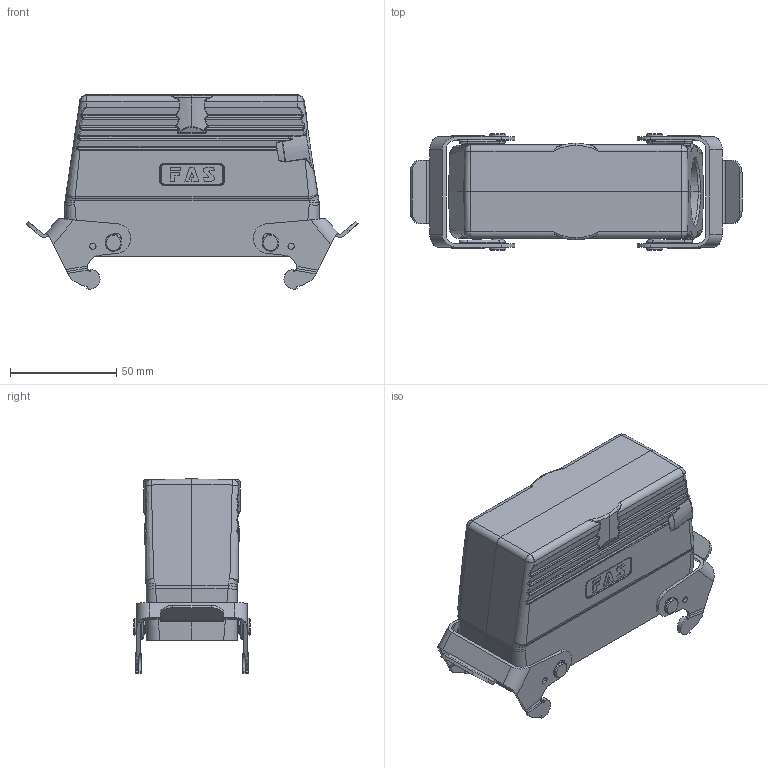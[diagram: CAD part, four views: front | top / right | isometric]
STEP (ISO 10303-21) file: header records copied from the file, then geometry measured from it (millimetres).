
FILE_DESCRIPTION (( 'STEP AP203' ), '1' );
FILE_NAME ('H24B-TSBH-M25&32&40.STEP', '2020-11-21T06:28:47', ( '' ), ( '' ), 'SwSTEP 2.0', 'SolidWorks 2016', '' );
FILE_SCHEMA (( 'CONFIG_CONTROL_DESIGN' ));
Length unit declared in the file: millimetre
Products named in the file (6): maoding; jinshushuangkou; 24bcaixinshuangkou; tanhuang; H24B-TSBH-M25&32&40; H24B-TSH-奻褲
Assembly tree (8 placements, depth 3):
  H24B-TSBH-M25&32&40
    jinshushuangkou  x2
      24bcaixinshuangkou
      tanhuang
      maoding
    H24B-TSH-奻褲
Bounding box: 156.49 x 55 x 91.56 mm (x, y, z)
Volume: 117956 mm3; surface area: 64501.4 mm2
Topology: 11 solids, 11 shells, 949 faces, 2326 edges, 1431 vertices
Faces by surface type: cylinder 347, bspline 284, plane 257, cone 61
Entity records: 33765 total; most frequent: CARTESIAN_POINT 18005, ORIENTED_EDGE 3620, DIRECTION 2488, EDGE_CURVE 1810, VERTEX_POINT 1105, AXIS2_PLACEMENT_3D 904, EDGE_LOOP 767, ADVANCED_FACE 735
